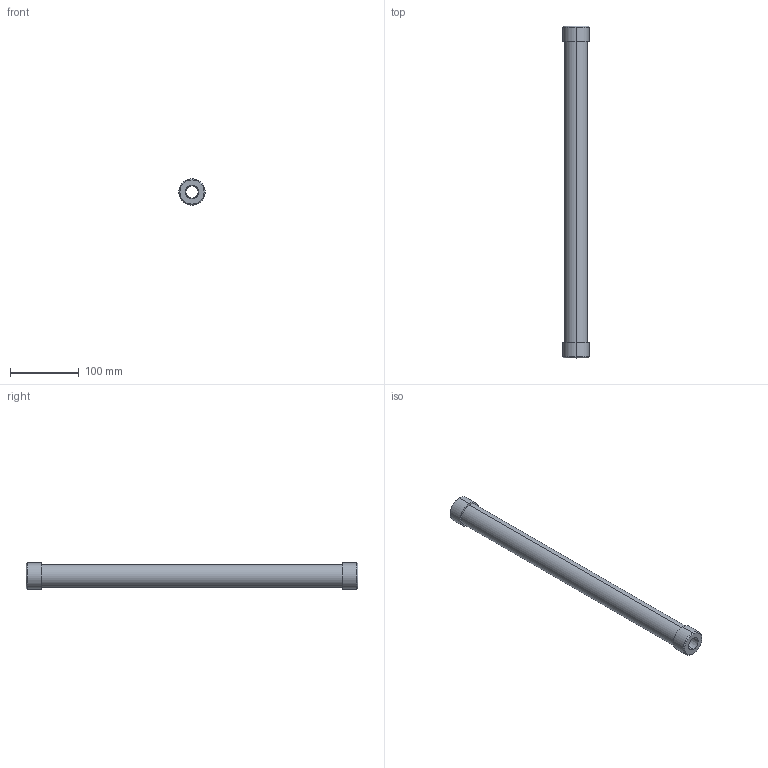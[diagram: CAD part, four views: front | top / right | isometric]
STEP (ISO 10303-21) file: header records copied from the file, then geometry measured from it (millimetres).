
FILE_DESCRIPTION (( 'STEP AP203' ), '1' );
FILE_NAME ('CC0200_P_BSPT.STEP', '2016-03-21T09:42:18', ( '' ), ( '' ), 'SwSTEP 2.0', 'SolidWorks 2014', '' );
FILE_SCHEMA (( 'CONFIG_CONTROL_DESIGN' ));
Length unit declared in the file: inch
Products named in the file (2): CC0200_P_BSPT
Bounding box: 38.1 x 482.6 x 38.1 mm (x, y, z)
Volume: 184073.2 mm3; surface area: 92757.6 mm2
Topology: 1 solids, 1 shells, 28 faces, 56 edges, 36 vertices
Faces by surface type: cylinder 12, cone 8, plane 8
Entity records: 905 total; most frequent: DIRECTION 152, CARTESIAN_POINT 122, ORIENTED_EDGE 112, AXIS2_PLACEMENT_3D 66, EDGE_CURVE 56, VERTEX_POINT 36, CIRCLE 36, EDGE_LOOP 36
